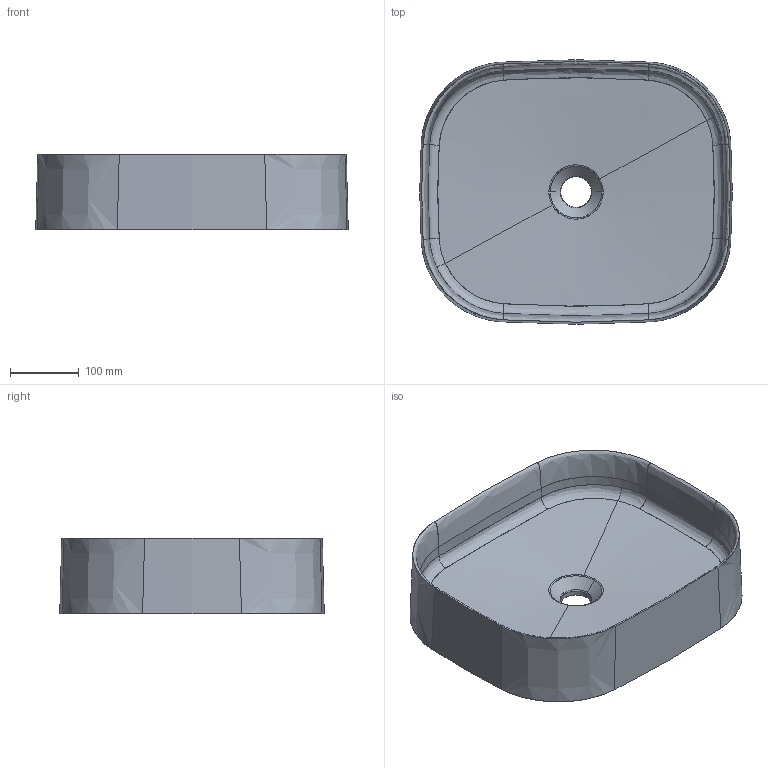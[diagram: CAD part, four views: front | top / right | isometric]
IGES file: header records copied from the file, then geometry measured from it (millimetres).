
Start section: START RECORD GO HERE.
Global section: file name: ART 7406 45 x38 tondo.igs; native system: DASSAULT SYSTEMES CATIA V5 R19 - www.3ds.com; preprocessor: CATIA Version 5 Release 19 SP 5 ; author: Luca; organization: DESKTOP-V7SON24; date: 20181015.135033; units: millimetre
Bounding box: 455.76 x 385.76 x 110 mm (x, y, z)
Surface area: 588559.6 mm2 (no closed solid volume)
Topology: 0 solids, 0 shells, 116 faces, 516 edges, 516 vertices
Faces by surface type: bspline 104, revolution 8, plane 4
